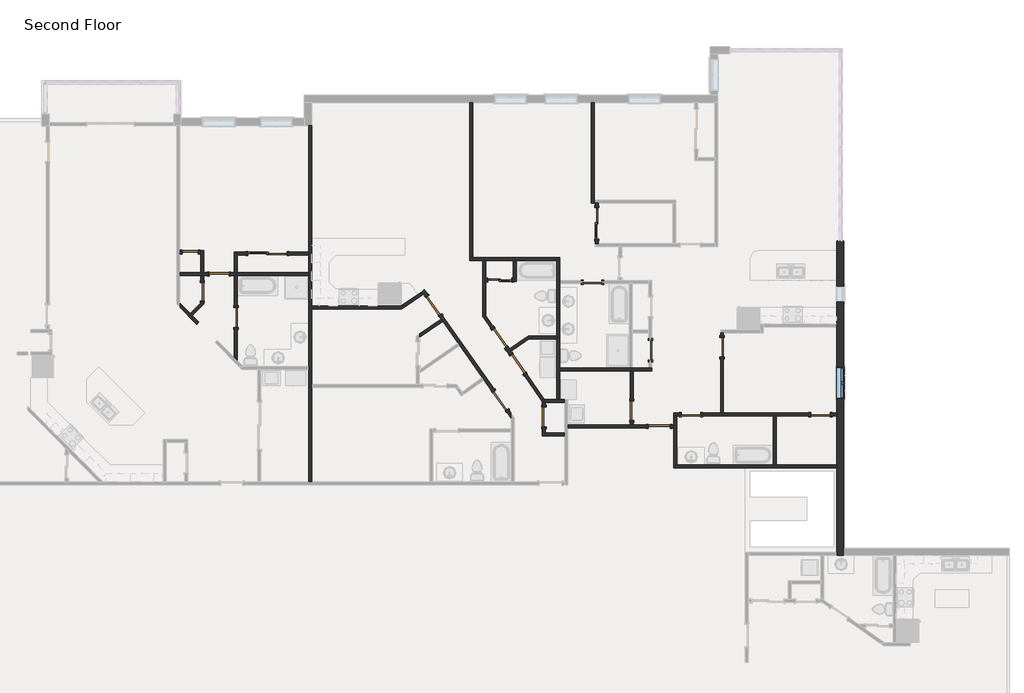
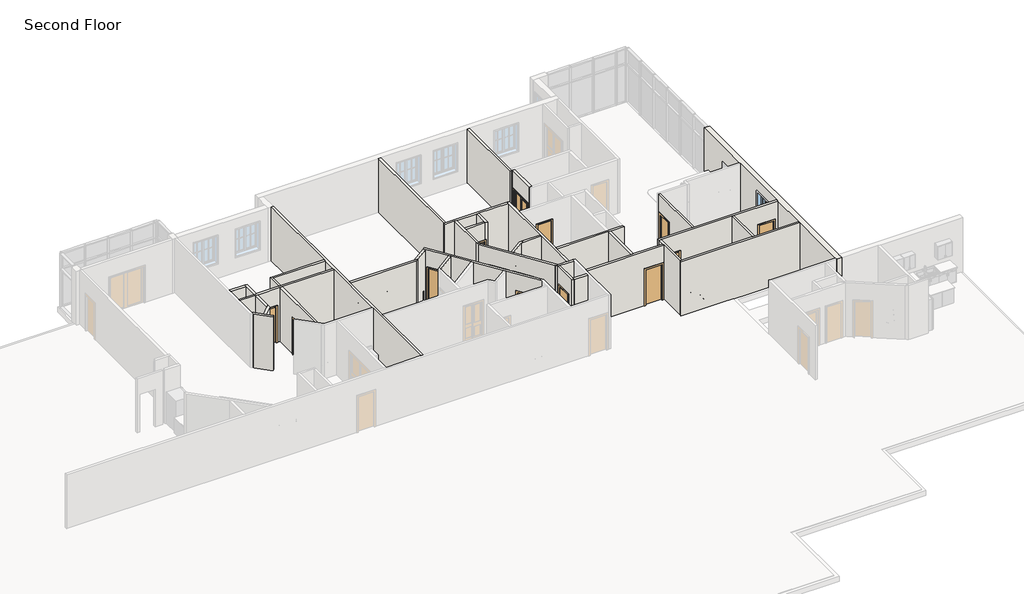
# One storey, part 11 of 17: 37 walls, 19 doors, 1 window.
"""IFC4 building model written with IfcOpenShell, lengths in millimetres."""

from ifc_helpers import new_model, si_unit, frame, origin, place, context, project, spatial, polyline, outline, extrude, faceted_brep, transform, mapped, element, save
from components import door_e2285e44, door_f2586ccf, door_2d0eeab4, door_d8f5dbb5, door_f2b275c1, door_825b8444, door_c29894e6, door_88c23cd7, door_900f836f, door_2e7ec8be, window_33528cc2

model = new_model("IFC4")

# Units and contexts
model_context = context("Model", 3, world=origin())
ifc_project = project(units=[si_unit("LENGTHUNIT", "METRE", prefix="MILLI")], contexts=[model_context])

# Site, building, storey
site = spatial("IfcSite", under=ifc_project)
building = spatial("IfcBuilding", under=site)
storey = spatial("IfcBuildingStorey", under=building, Name="Second Floor", Elevation=3048.0)

# Doors
placement = place(None, origin())
door_shape = door_e2285e44(model_context)
element("IfcDoor", 1, ObjectType="Single-Flush : 24\" x 80\"", at=placement, inside=storey, context=model_context, shape_type="MappedRepresentation", body=[
    mapped(door_shape, transform((32134.1490863, 11206.8738431, 3048.0), x_axis=(-1.0, 0.0, 0.0), y_axis=(0.0, -1.0, 0.0), z_axis=(0.0, 0.0, 1.0))),
])
door_2_shape = door_f2586ccf(model_context)
element("IfcDoor", 2, ObjectType="Single-Flush : 28\" x 80\"", at=placement, inside=storey, context=model_context, shape_type="MappedRepresentation", body=[
    mapped(door_2_shape, transform((32600.8503506, 9684.7566317, 3048.0), x_axis=(0.0, -1.0, 0.0), y_axis=(1.0, 0.0, 0.0), z_axis=(0.0, 0.0, 1.0))),
])
door_3_shape = door_2d0eeab4(model_context)
element("IfcDoor", 3, ObjectType="Single-Flush : 28\" x 80\"", at=placement, inside=storey, context=model_context, shape_type="MappedRepresentation", body=[
    mapped(door_3_shape, transform((47614.8260153, 10045.1667096, 3048.0), x_axis=(1.0, 0.0, 0.0), y_axis=(0.0, 1.0, 0.0), z_axis=(0.0, 0.0, 1.0))),
])
door_4_shape = door_d8f5dbb5(model_context)
element("IfcDoor", 4, ObjectType="Single-Flush : 30\" x 80\"", at=placement, inside=storey, context=model_context, shape_type="MappedRepresentation", body=[
    mapped(door_4_shape, transform((45750.4941402, 4857.5393477, 3048.0), x_axis=(0.0, 1.0, 0.0), y_axis=(-1.0, 0.0, 0.0), z_axis=(0.0, 0.0, 1.0))),
])
element("IfcDoor", 5, ObjectType="Single-Flush : 30\" x 80\"", at=placement, inside=storey, context=model_context, shape_type="MappedRepresentation", body=[
    mapped(door_4_shape, transform((51410.1982354, 4944.5386142, 3048.0), x_axis=(-1.0, 0.0, 0.0), y_axis=(0.0, -1.0, 0.0), z_axis=(0.0, 0.0, 1.0))),
])
element("IfcDoor", 6, ObjectType="Single-Flush : 30\" x 80\"", at=placement, inside=storey, context=model_context, shape_type="MappedRepresentation", body=[
    mapped(door_4_shape, transform((49850.4788879, 7420.455328, 3048.0), x_axis=(0.0, -1.0, 0.0), y_axis=(1.0, 0.0, 0.0), z_axis=(0.0, 0.0, 1.0))),
])
door_5_shape = door_f2b275c1(model_context)
element("IfcDoor", 7, ObjectType="Single-Flush : 30\" x 80\"", at=placement, inside=storey, context=model_context, shape_type="MappedRepresentation", body=[
    mapped(door_5_shape, transform((33248.5503506, 10357.9910099, 3048.0), x_axis=(-1.0, 0.0, 0.0), y_axis=(0.0, -1.0, 0.0), z_axis=(0.0, 0.0, 1.0))),
])
element("IfcDoor", 8, ObjectType="Single-Flush : 30\" x 80\"", at=placement, inside=storey, context=model_context, shape_type="MappedRepresentation", body=[
    mapped(door_5_shape, transform((33896.2503506, 8681.5910099, 3048.0), x_axis=(0.0, 1.0, 0.0), y_axis=(-1.0, 0.0, 0.0), z_axis=(0.0, 0.0, 1.0))),
])
element("IfcDoor", 9, ObjectType="Single-Flush : 30\" x 80\"", at=placement, inside=storey, context=model_context, shape_type="MappedRepresentation", body=[
    mapped(door_5_shape, transform((49133.9272963, 5096.9386142, 3048.0), x_axis=(0.0, -1.0, 0.0), y_axis=(1.0, 0.0, 0.0), z_axis=(0.0, 0.0, 1.0))),
])
element("IfcDoor", 10, ObjectType="Single-Flush : 30\" x 80\"", at=placement, inside=storey, context=model_context, shape_type="MappedRepresentation", body=[
    mapped(door_5_shape, transform((52607.3485135, 7538.9439464, 3048.0), x_axis=(0.0, 1.0, 0.0), y_axis=(-1.0, 0.0, 0.0), z_axis=(0.0, 0.0, 1.0))),
])
element("IfcDoor", 11, ObjectType="Single-Flush : 30\" x 80\"", at=placement, inside=storey, context=model_context, shape_type="MappedRepresentation", body=[
    mapped(door_5_shape, transform((56399.0962704, 4944.5386142, 3048.0), x_axis=(1.0, 0.0, 0.0), y_axis=(0.0, 1.0, 0.0), z_axis=(0.0, 0.0, 1.0))),
])
door_6_shape = door_825b8444(model_context)
element("IfcDoor", 12, ObjectType="Single-Flush : 34\" x 80\"", at=placement, inside=storey, context=model_context, shape_type="MappedRepresentation", body=[
    mapped(door_6_shape, transform((44075.379577, 5485.5706082, 3048.0), x_axis=(0.5735764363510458, -0.8191520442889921, 0.0), y_axis=(0.8191520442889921, 0.5735764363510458, 0.0), z_axis=(0.0, 0.0, 1.0))),
])
element("IfcDoor", 13, ObjectType="Single-Flush : 34\" x 80\"", at=placement, inside=storey, context=model_context, shape_type="MappedRepresentation", body=[
    mapped(door_6_shape, transform((44748.5781815, 6887.1795824, 3048.0), x_axis=(-0.5735764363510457, 0.819152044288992, 0.0), y_axis=(-0.819152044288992, -0.5735764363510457, 0.0), z_axis=(0.0, 0.0, 1.0))),
])
door_7_shape = door_c29894e6(model_context)
element("IfcDoor", 14, ObjectType="Single-Flush : 34\" x 80\"", at=placement, inside=storey, context=model_context, shape_type="MappedRepresentation", body=[
    mapped(door_7_shape, transform((41510.2711658, 9148.9250727, 3048.0), x_axis=(-0.5735764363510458, 0.8191520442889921, 0.0), y_axis=(-0.8191520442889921, -0.5735764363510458, 0.0), z_axis=(0.0, 0.0, 1.0))),
])
element("IfcDoor", 15, ObjectType="Single-Flush : 34\" x 80\"", at=placement, inside=storey, context=model_context, shape_type="MappedRepresentation", body=[
    mapped(door_7_shape, transform((44049.2737903, 7885.8897548, 3048.0), x_axis=(0.5735764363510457, -0.819152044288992, 0.0), y_axis=(0.819152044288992, 0.5735764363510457, 0.0), z_axis=(0.0, 0.0, 1.0))),
])
element("IfcDoor", 16, ObjectType="Single-Flush : 34\" x 80\"", at=placement, inside=storey, context=model_context, shape_type="MappedRepresentation", body=[
    mapped(door_7_shape, transform((50190.9982354, 4487.3386142, 3048.0), x_axis=(1.0, 0.0, 0.0), y_axis=(0.0, 1.0, 0.0), z_axis=(0.0, 0.0, 1.0))),
])
door_8_shape = door_88c23cd7(model_context)
element("IfcDoor", 17, ObjectType="Sliding-Closet : 36\" x 80\"", at=placement, inside=storey, context=model_context, shape_type="MappedRepresentation", body=[
    mapped(door_8_shape, transform((44050.8019535, 10258.3378349, 3048.0), x_axis=(-1.0, 0.0, 0.0), y_axis=(0.0, -1.0, 0.0), z_axis=(0.0, 0.0, 1.0))),
])
door_9_shape = door_900f836f(model_context)
element("IfcDoor", 18, ObjectType="Sliding-Closet : 48\" x 80\"", at=placement, inside=storey, context=model_context, shape_type="MappedRepresentation", body=[
    mapped(door_9_shape, transform((47915.2940143, 12314.1601128, 3048.0), x_axis=(0.0, 1.0, 0.0), y_axis=(-1.0, 0.0, 0.0), z_axis=(0.0, 0.0, 1.0))),
])
door_10_shape = door_2e7ec8be(model_context)
element("IfcDoor", 19, ObjectType="Sliding-Closet : 60\" x 80\"", at=placement, inside=storey, context=model_context, shape_type="MappedRepresentation", body=[
    mapped(door_10_shape, transform((35115.4503506, 11022.7238431, 3048.0), x_axis=(1.0, 0.0, 0.0), y_axis=(0.0, 1.0, 0.0), z_axis=(0.0, 0.0, 1.0))),
])

# Walls
element("IfcWall", 20, ObjectType="Exterior - Brick on Wood Stud", at=placement, inside=storey, context=model_context, shape_type="Brep", body=[
    faceted_brep([(57019.8087704, 11632.2044819, 3048.0), (57019.8087704, 8425.9167096, 3048.0), (57019.8087704, 8311.6167096, 3048.0), (57019.8087704, 5001.6886142, 3048.0), (57019.8087704, 4887.3886142, 3048.0), (57019.8087704, 3002.5544819, 3048.0), (57019.8087704, 2888.2544819, 3048.0), (57019.8087704, -370.8512558, 3048.0), (57019.8087704, -485.1512558, 3048.0), (57019.8087704, -485.1512558, 6096.0), (57019.8087704, -370.8512558, 6096.0), (57019.8087704, 2888.2544819, 6096.0), (57019.8087704, 3002.5544819, 6096.0), (57019.8087704, 4887.3886142, 6096.0), (57019.8087704, 5001.6886142, 6096.0), (57019.8087704, 8311.6167096, 6096.0), (57019.8087704, 8425.9167096, 6096.0), (57019.8087704, 11632.2044819, 6096.0), (57019.8087704, 5554.1386142, 5486.4), (57019.8087704, 5554.1386142, 3962.4), (57019.8087704, 6773.3386142, 3962.4), (57019.8087704, 6773.3386142, 5486.4), (57019.8087704, 9283.1667096, 5181.6), (57019.8087704, 9283.1667096, 3962.4), (57019.8087704, 9892.7667096, 3962.4), (57019.8087704, 9892.7667096, 5181.6), (57302.3837704, 11632.2044819, 3048.0), (57302.3837704, 11632.2044819, 6096.0), (57302.3837704, -202.5762558, 6096.0), (57302.3837704, -485.1512558, 6096.0), (57302.3837704, -485.1512558, 3048.0), (57302.3837704, -202.5762558, 3048.0), (57302.3837704, 5554.1386142, 5486.4), (57302.3837704, 6773.3386142, 5486.4), (57302.3837704, 6773.3386142, 3962.4), (57302.3837704, 5554.1386142, 3962.4), (57302.3837704, 9283.1667096, 5181.6), (57302.3837704, 9892.7667096, 5181.6), (57302.3837704, 9892.7667096, 3962.4), (57302.3837704, 9283.1667096, 3962.4)], [[[0, 1, 2, 3, 4, 5, 6, 7, 8, 9, 10, 11, 12, 13, 14, 15, 16, 17], [18, 19, 20, 21], [22, 23, 24, 25]], [[26, 27, 28, 29, 30, 31], [32, 33, 34, 35], [36, 37, 38, 39]], [[8, 7, 6, 5, 4, 3, 2, 1, 0, 26, 31, 30]], [[17, 16, 15, 14, 13, 12, 11, 10, 9, 29, 28, 27]], [[0, 17, 27, 26]], [[19, 18, 32, 35]], [[20, 19, 35, 34]], [[21, 20, 34, 33]], [[18, 21, 33, 32]], [[23, 22, 36, 39]], [[24, 23, 39, 38]], [[25, 24, 38, 37]], [[22, 25, 37, 36]], [[9, 8, 30, 29]]]),
])
element("IfcWall", 21, ObjectType="Interior - 4 1/2\" Partition", at=placement, inside=storey, context=model_context, shape_type="Brep", body=[
    faceted_brep([(57019.8087704, 3002.5544819, 3048.0), (54695.8146836, 3002.5544819, 3048.0), (54581.5146836, 3002.5544819, 3048.0), (50857.7482354, 3002.5544819, 3048.0), (50743.4482354, 3002.5544819, 3048.0), (50743.4482354, 3002.5544819, 6096.0), (50857.7482354, 3002.5544819, 6096.0), (54581.5146836, 3002.5544819, 6096.0), (54695.8146836, 3002.5544819, 6096.0), (57019.8087704, 3002.5544819, 6096.0), (57019.8087704, 2888.2544819, 3048.0), (57019.8087704, 2888.2544819, 6096.0), (50743.4482354, 2888.2544819, 6096.0), (50743.4482354, 2888.2544819, 3048.0)], [[[0, 1, 2, 3, 4, 5, 6, 7, 8, 9]], [[10, 11, 12, 13]], [[4, 3, 2, 1, 0, 10, 13]], [[9, 8, 7, 6, 5, 12, 11]], [[5, 4, 13, 12]], [[0, 9, 11, 10]]]),
])
element("IfcWall", 22, ObjectType="Interior - 4 1/2\" Partition", at=placement, inside=storey, context=model_context, shape_type="Brep", body=[
    faceted_brep([(50857.7482354, 3002.5544819, 3048.0), (50857.7482354, 4887.3886142, 3048.0), (50857.7482354, 4887.3886142, 6096.0), (50857.7482354, 3002.5544819, 6096.0), (50743.4482354, 3002.5544819, 3048.0), (50743.4482354, 3002.5544819, 6096.0), (50743.4482354, 4430.1886142, 6096.0), (50743.4482354, 4544.4886142, 6096.0), (50743.4482354, 4887.3886142, 6096.0), (50743.4482354, 4887.3886142, 3048.0), (50743.4482354, 4544.4886142, 3048.0), (50743.4482354, 4430.1886142, 3048.0)], [[[0, 1, 2, 3]], [[4, 5, 6, 7, 8, 9, 10, 11]], [[1, 0, 4, 11, 10, 9]], [[3, 2, 8, 7, 6, 5]], [[2, 1, 9, 8]], [[0, 3, 5, 4]]]),
])
element("IfcWall", 23, ObjectType="Interior - 4 1/2\" Partition", at=placement, inside=storey, context=model_context, shape_type="Brep", body=[
    faceted_brep([(50743.4482354, 4544.4886142, 3048.0), (50622.7982354, 4544.4886142, 3048.0), (50622.7982354, 4544.4886142, 5080.0), (49759.1982354, 4544.4886142, 5080.0), (49759.1982354, 4544.4886142, 3048.0), (49191.0772963, 4544.4886142, 3048.0), (49076.7772963, 4544.4886142, 3048.0), (46668.7626872, 4544.4886142, 3048.0), (46668.7626872, 4544.4886142, 6096.0), (49076.7772963, 4544.4886142, 6096.0), (49191.0772963, 4544.4886142, 6096.0), (50743.4482354, 4544.4886142, 6096.0), (50622.7982354, 4430.1886142, 5080.0), (50622.7982354, 4430.1886142, 3048.0), (50743.4482354, 4430.1886142, 3048.0), (50743.4482354, 4430.1886142, 6096.0), (46668.7626872, 4430.1886142, 6096.0), (46668.7626872, 4430.1886142, 3048.0), (49759.1982354, 4430.1886142, 3048.0), (49759.1982354, 4430.1886142, 5080.0)], [[[0, 1, 2, 3, 4, 5, 6, 7, 8, 9, 10, 11]], [[12, 13, 14, 15, 16, 17, 18, 19]], [[18, 17, 7, 6, 5, 4]], [[14, 13, 1, 0]], [[11, 10, 9, 8, 16, 15]], [[2, 1, 13, 12]], [[3, 2, 12, 19]], [[4, 3, 19, 18]], [[8, 7, 17, 16]], [[0, 11, 15, 14]]]),
])
element("IfcWall", 24, ObjectType="Interior - 4 1/2\" Partition", at=placement, inside=storey, context=model_context, shape_type="Brep", body=[
    faceted_brep([(46554.4626872, 5524.2893477, 3048.0), (46352.4352525, 5524.2893477, 3048.0), (46238.1352525, 5524.2893477, 3048.0), (45772.6514653, 5524.2893477, 3048.0), (45633.1169298, 5524.2893477, 3048.0), (45633.1169298, 5524.2893477, 6096.0), (45772.6514653, 5524.2893477, 6096.0), (46238.1352525, 5524.2893477, 6096.0), (46352.4352525, 5524.2893477, 6096.0), (46554.4626872, 5524.2893477, 6096.0), (46554.4626872, 5409.9893477, 3048.0), (46554.4626872, 5409.9893477, 6096.0), (45807.6441402, 5409.9893477, 6096.0), (45713.1506514, 5409.9893477, 6096.0), (45713.1506514, 5409.9893477, 3048.0), (45807.6441402, 5409.9893477, 3048.0), (45693.3441402, 5438.2759773, 3048.0), (45693.3441402, 5438.2759773, 6096.0)], [[[0, 1, 2, 3, 4, 5, 6, 7, 8, 9]], [[10, 11, 12, 13, 14, 15]], [[4, 3, 2, 1, 0, 10, 15, 14, 16]], [[9, 8, 7, 6, 5, 17, 13, 12, 11]], [[5, 4, 16, 14, 13, 17]], [[0, 9, 11, 10]]]),
])
element("IfcWall", 25, ObjectType="Interior - 4 1/2\" Partition", at=placement, inside=storey, context=model_context, shape_type="Brep", body=[
    faceted_brep([(46352.4352525, 5524.2893477, 3048.0), (46352.4352525, 6635.2167096, 3048.0), (46352.4352525, 6749.5167096, 3048.0), (46352.4352525, 9988.0167096, 3048.0), (46352.4352525, 10102.3167096, 3048.0), (46352.4352525, 11001.2878349, 3048.0), (46352.4352525, 11001.2878349, 6096.0), (46352.4352525, 10102.3167096, 6096.0), (46352.4352525, 9988.0167096, 6096.0), (46352.4352525, 6749.5167096, 6096.0), (46352.4352525, 6635.2167096, 6096.0), (46352.4352525, 5524.2893477, 6096.0), (46238.1352525, 5524.2893477, 3048.0), (46238.1352525, 5524.2893477, 6096.0), (46238.1352525, 7864.8634145, 6096.0), (46238.1352525, 7979.1634145, 6096.0), (46238.1352525, 10886.9878349, 6096.0), (46238.1352525, 11001.2878349, 6096.0), (46238.1352525, 11001.2878349, 3048.0), (46238.1352525, 10886.9878349, 3048.0), (46238.1352525, 7979.1634145, 3048.0), (46238.1352525, 7864.8634145, 3048.0)], [[[0, 1, 2, 3, 4, 5, 6, 7, 8, 9, 10, 11]], [[12, 13, 14, 15, 16, 17, 18, 19, 20, 21]], [[5, 4, 3, 2, 1, 0, 12, 21, 20, 19, 18]], [[11, 10, 9, 8, 7, 6, 17, 16, 15, 14, 13]], [[6, 5, 18, 17]], [[0, 11, 13, 12]]]),
])
element("IfcWall", 26, ObjectType="Interior - 4 1/2\" Partition", at=placement, inside=storey, context=model_context, shape_type="Brep", body=[
    faceted_brep([(46238.1352525, 11001.2878349, 3048.0), (43004.4928001, 11001.2878349, 3048.0), (42890.1928001, 11001.2878349, 3048.0), (42890.1928001, 11001.2878349, 6096.0), (43004.4928001, 11001.2878349, 6096.0), (46238.1352525, 11001.2878349, 6096.0), (46238.1352525, 10886.9878349, 3048.0), (46238.1352525, 10886.9878349, 6096.0), (44678.4640263, 10886.9878349, 6096.0), (44564.1640263, 10886.9878349, 6096.0), (43512.0398807, 10886.9878349, 6096.0), (43397.7398807, 10886.9878349, 6096.0), (42890.1928001, 10886.9878349, 6096.0), (42890.1928001, 10886.9878349, 3048.0), (43397.7398807, 10886.9878349, 3048.0), (43512.0398807, 10886.9878349, 3048.0), (44564.1640263, 10886.9878349, 3048.0), (44678.4640263, 10886.9878349, 3048.0)], [[[0, 1, 2, 3, 4, 5]], [[6, 7, 8, 9, 10, 11, 12, 13, 14, 15, 16, 17]], [[2, 1, 0, 6, 17, 16, 15, 14, 13]], [[5, 4, 3, 12, 11, 10, 9, 8, 7]], [[3, 2, 13, 12]], [[0, 5, 7, 6]]]),
])
element("IfcWall", 27, ObjectType="Interior - 4 1/2\" Partition", at=placement, inside=storey, context=model_context, shape_type="SweptSolid", body=[
    extrude(outline(polyline([(43004.4928001, 16964.1039258), (43004.4928001, 11001.2878349), (42890.1928001, 11001.2878349), (42890.1928001, 16964.1039258), (43004.4928001, 16964.1039258)])), frame((0.0, 0.0, 3048.0), z_axis=(0.0, 0.0, 1.0), x_axis=(1.0, 0.0, 0.0)), (0.0, 0.0, 1.0), 3048.0),
])
element("IfcWall", 28, ObjectType="Interior - 4 1/2\" Partition", at=placement, inside=storey, context=model_context, shape_type="Brep", body=[
    faceted_brep([(47578.7440143, 16964.1039258, 3048.0), (47578.7440143, 13091.2456698, 3048.0), (47578.7440143, 13091.2456698, 6096.0), (47578.7440143, 16964.1039258, 6096.0), (47693.0440143, 16964.1039258, 3048.0), (47693.0440143, 16964.1039258, 6096.0), (47693.0440143, 13205.5456698, 6096.0), (47693.0440143, 13091.2456698, 6096.0), (47693.0440143, 13091.2456698, 3048.0), (47693.0440143, 13205.5456698, 3048.0)], [[[0, 1, 2, 3]], [[4, 5, 6, 7, 8, 9]], [[1, 0, 4, 9, 8]], [[3, 2, 7, 6, 5]], [[2, 1, 8, 7]], [[0, 3, 5, 4]]]),
])
element("IfcWall", 29, ObjectType="Interior - 4 1/2\" Partition", at=placement, inside=storey, context=model_context, shape_type="SweptSolid", body=[
    extrude(outline(polyline([(13091.2456698, 3048.0), (12923.7601128, 3048.0), (12923.7601128, 5080.0), (11704.5601128, 5080.0), (11704.5601128, 3048.0), (11537.0745559, 3048.0), (11537.0745559, 6096.0), (13091.2456698, 6096.0), (13091.2456698, 3048.0)])), frame((47731.1440143, 0.0, 0.0), z_axis=(1.0, 0.0, 0.0), x_axis=(0.0, 1.0, 0.0)), (0.0, 0.0, 1.0), 114.3),
])
element("IfcWall", 30, ObjectType="Interior - 4 1/2\" Partition", at=placement, inside=storey, context=model_context, shape_type="Brep", body=[
    faceted_brep([(46352.4352525, 6635.2167096, 3048.0), (49076.7772963, 6635.2167096, 3048.0), (49191.0772963, 6635.2167096, 3048.0), (49907.6288879, 6635.2167096, 3048.0), (49907.6288879, 6635.2167096, 6096.0), (49191.0772963, 6635.2167096, 6096.0), (49076.7772963, 6635.2167096, 6096.0), (46352.4352525, 6635.2167096, 6096.0), (46352.4352525, 6749.5167096, 3048.0), (46352.4352525, 6749.5167096, 6096.0), (49032.3272963, 6749.5167096, 6096.0), (49146.6272963, 6749.5167096, 6096.0), (49793.3288879, 6749.5167096, 6096.0), (49907.6288879, 6749.5167096, 6096.0), (49907.6288879, 6749.5167096, 3048.0), (49793.3288879, 6749.5167096, 3048.0), (49146.6272963, 6749.5167096, 3048.0), (49032.3272963, 6749.5167096, 3048.0)], [[[0, 1, 2, 3, 4, 5, 6, 7]], [[8, 9, 10, 11, 12, 13, 14, 15, 16, 17]], [[3, 2, 1, 0, 8, 17, 16, 15, 14]], [[7, 6, 5, 4, 13, 12, 11, 10, 9]], [[4, 3, 14, 13]], [[0, 7, 9, 8]]]),
])
element("IfcWall", 31, ObjectType="Interior - 4 1/2\" Partition", at=placement, inside=storey, context=model_context, shape_type="SweptSolid", body=[
    extrude(outline(polyline([(4715.9386142, 5080.0), (4715.9386142, 3048.0), (4544.4886142, 3048.0), (4544.4886142, 6096.0), (6635.2167096, 6096.0), (6635.2167096, 3048.0), (5477.9386142, 3048.0), (5477.9386142, 5080.0), (4715.9386142, 5080.0)])), frame((49076.7772963, 0.0, 0.0), z_axis=(1.0, 0.0, 0.0), x_axis=(0.0, 1.0, 0.0)), (0.0, 0.0, 1.0), 114.3),
])
element("IfcWall", 32, ObjectType="Interior - 4 1/2\" Partition", at=placement, inside=storey, context=model_context, shape_type="Brep", body=[
    faceted_brep([(57019.8087704, 5001.6886142, 3048.0), (56780.0962704, 5001.6886142, 3048.0), (56780.0962704, 5001.6886142, 5080.0), (56018.0962704, 5001.6886142, 5080.0), (56018.0962704, 5001.6886142, 3048.0), (52664.4985135, 5001.6886142, 3048.0), (52550.1985135, 5001.6886142, 3048.0), (51791.1982354, 5001.6886142, 3048.0), (51791.1982354, 5001.6886142, 5080.0), (51029.1982354, 5001.6886142, 5080.0), (51029.1982354, 5001.6886142, 3048.0), (50743.4482354, 5001.6886142, 3048.0), (50743.4482354, 5001.6886142, 6096.0), (52550.1985135, 5001.6886142, 6096.0), (52664.4985135, 5001.6886142, 6096.0), (57019.8087704, 5001.6886142, 6096.0), (56780.0962704, 4887.3886142, 5080.0), (56780.0962704, 4887.3886142, 3048.0), (57019.8087704, 4887.3886142, 3048.0), (57019.8087704, 4887.3886142, 6096.0), (54695.8146836, 4887.3886142, 6096.0), (54581.5146836, 4887.3886142, 6096.0), (50857.7482354, 4887.3886142, 6096.0), (50743.4482354, 4887.3886142, 6096.0), (50743.4482354, 4887.3886142, 3048.0), (50857.7482354, 4887.3886142, 3048.0), (51029.1982354, 4887.3886142, 3048.0), (51029.1982354, 4887.3886142, 5080.0), (51791.1982354, 4887.3886142, 5080.0), (51791.1982354, 4887.3886142, 3048.0), (54581.5146836, 4887.3886142, 3048.0), (54695.8146836, 4887.3886142, 3048.0), (56018.0962704, 4887.3886142, 3048.0), (56018.0962704, 4887.3886142, 5080.0)], [[[0, 1, 2, 3, 4, 5, 6, 7, 8, 9, 10, 11, 12, 13, 14, 15]], [[16, 17, 18, 19, 20, 21, 22, 23, 24, 25, 26, 27, 28, 29, 30, 31, 32, 33]], [[11, 10, 26, 25, 24]], [[18, 17, 1, 0]], [[32, 31, 30, 29, 7, 6, 5, 4]], [[15, 14, 13, 12, 23, 22, 21, 20, 19]], [[27, 26, 10, 9]], [[28, 27, 9, 8]], [[29, 28, 8, 7]], [[2, 1, 17, 16]], [[3, 2, 16, 33]], [[4, 3, 33, 32]], [[12, 11, 24, 23]], [[0, 15, 19, 18]]]),
])
element("IfcWall", 33, ObjectType="Interior - 4 1/2\" Partition", at=placement, inside=storey, context=model_context, shape_type="SweptSolid", body=[
    extrude(outline(polyline([(54581.5146836, 3002.5544819), (54581.5146836, 4887.3886142), (54695.8146836, 4887.3886142), (54695.8146836, 3002.5544819), (54581.5146836, 3002.5544819)])), frame((0.0, 0.0, 3048.0), z_axis=(0.0, 0.0, 1.0), x_axis=(1.0, 0.0, 0.0)), (0.0, 0.0, 1.0), 3048.0),
])
element("IfcWall", 34, ObjectType="Interior - 4 1/2\" Partition", at=placement, inside=storey, context=model_context, shape_type="SweptSolid", body=[
    extrude(outline(polyline([(8091.3939464, 3048.0), (7919.9439464, 3048.0), (7919.9439464, 5080.0), (7157.9439464, 5080.0), (7157.9439464, 3048.0), (5001.6886142, 3048.0), (5001.6886142, 6096.0), (8091.3939464, 6096.0), (8091.3939464, 3048.0)])), frame((52550.1985135, 0.0, 0.0), z_axis=(1.0, 0.0, 0.0), x_axis=(0.0, 1.0, 0.0)), (0.0, 0.0, 1.0), 114.3),
])
element("IfcWall", 35, ObjectType="Interior - 4 1/2\" Partition", at=placement, inside=storey, context=model_context, shape_type="Brep", body=[
    faceted_brep([(36816.4178001, 2359.3591714, 3048.0), (36816.4178001, 5991.110079, 3048.0), (36816.4178001, 6105.410079, 3048.0), (36816.4178001, 9005.4410099, 3048.0), (36816.4178001, 9119.7410099, 3048.0), (36816.4178001, 16077.0865339, 3048.0), (36816.4178001, 16077.0865339, 6096.0), (36816.4178001, 9119.7410099, 6096.0), (36816.4178001, 9005.4410099, 6096.0), (36816.4178001, 6105.410079, 6096.0), (36816.4178001, 5991.110079, 6096.0), (36816.4178001, 2359.3591714, 6096.0), (36702.1178001, 2359.3591714, 3048.0), (36702.1178001, 2359.3591714, 6096.0), (36702.1178001, 6691.8559423, 6096.0), (36702.1178001, 6806.1559423, 6096.0), (36702.1178001, 10300.8410099, 6096.0), (36702.1178001, 10415.1410099, 6096.0), (36702.1178001, 11092.5738431, 6096.0), (36702.1178001, 11206.8738431, 6096.0), (36702.1178001, 16077.0865339, 6096.0), (36702.1178001, 16077.0865339, 3048.0), (36702.1178001, 11206.8738431, 3048.0), (36702.1178001, 11092.5738431, 3048.0), (36702.1178001, 10415.1410099, 3048.0), (36702.1178001, 10300.8410099, 3048.0), (36702.1178001, 6806.1559423, 3048.0), (36702.1178001, 6691.8559423, 3048.0)], [[[0, 1, 2, 3, 4, 5, 6, 7, 8, 9, 10, 11]], [[12, 13, 14, 15, 16, 17, 18, 19, 20, 21, 22, 23, 24, 25, 26, 27]], [[5, 4, 3, 2, 1, 0, 12, 27, 26, 25, 24, 23, 22, 21]], [[11, 10, 9, 8, 7, 6, 20, 19, 18, 17, 16, 15, 14, 13]], [[0, 11, 13, 12]], [[6, 5, 21, 20]]]),
])
element("IfcWall", 36, ObjectType="Interior - 4 1/2\" Partition", at=placement, inside=storey, context=model_context, shape_type="Brep", body=[
    faceted_brep([(41309.4153999, 9535.4148188, 5080.0), (41309.4153999, 9535.4148188, 3048.0), (41154.070698, 9757.2700452, 3048.0), (41154.070698, 9757.2700452, 6096.0), (44491.9949591, 4990.220165, 6096.0), (44491.9949591, 4990.220165, 3048.0), (44369.8644215, 5164.6406488, 3048.0), (44369.8644215, 5164.6406488, 5080.0), (43874.5238111, 5872.0603542, 5080.0), (43874.5238111, 5872.0603542, 3048.0), (41804.7560103, 8827.9951134, 3048.0), (41804.7560103, 8827.9951134, 5080.0), (41060.4416193, 9691.7102585, 3048.0), (41126.001406, 9598.0811798, 3048.0), (41215.7863212, 9469.8550321, 3048.0), (41215.7863212, 9469.8550321, 5080.0), (41711.1269316, 8762.4353267, 5080.0), (41711.1269316, 8762.4353267, 3048.0), (41800.9118469, 8634.209179, 3048.0), (41866.4716335, 8540.5801003, 3048.0), (42452.1089123, 7704.203388, 3048.0), (42517.668699, 7610.5743093, 3048.0), (43383.893802, 6373.476655, 3048.0), (43449.4535887, 6279.8475763, 3048.0), (43780.8947324, 5806.5005676, 3048.0), (43780.8947324, 5806.5005676, 5080.0), (44276.2353429, 5099.0808621, 5080.0), (44276.2353429, 5099.0808621, 3048.0), (44491.9949591, 4790.9441963, 3048.0), (44491.9949591, 4790.9441963, 6096.0), (43449.4535887, 6279.8475763, 6096.0), (43383.893802, 6373.476655, 6096.0), (42517.668699, 7610.5743093, 6096.0), (42452.1089123, 7704.203388, 6096.0), (41866.4716335, 8540.5801003, 6096.0), (41800.9118469, 8634.209179, 6096.0), (41126.001406, 9598.0811798, 6096.0), (41060.4416193, 9691.7102585, 6096.0)], [[[0, 1, 2, 3, 4, 5, 6, 7, 8, 9, 10, 11]], [[12, 13, 14, 15, 16, 17, 18, 19, 20, 21, 22, 23, 24, 25, 26, 27, 28, 29, 30, 31, 32, 33, 34, 35, 36, 37]], [[28, 27, 6, 5]], [[10, 9, 24, 23, 22, 21, 20, 19, 18, 17]], [[2, 1, 14, 13, 12]], [[4, 3, 37, 36, 35, 34, 33, 32, 31, 30, 29]], [[7, 6, 27, 26]], [[8, 7, 26, 25]], [[9, 8, 25, 24]], [[15, 14, 1, 0]], [[16, 15, 0, 11]], [[17, 16, 11, 10]], [[3, 2, 12, 37]], [[5, 4, 29, 28]]]),
])
element("IfcWall", 37, ObjectType="Interior - 4 1/2\" Partition", at=placement, inside=storey, context=model_context, shape_type="SweptSolid", body=[
    extrude(outline(polyline([(41866.4716335, 8540.5801003), (40960.0847694, 7905.9211855), (40960.0847694, 8045.455721), (41800.9118469, 8634.209179), (41866.4716335, 8540.5801003)])), frame((0.0, 0.0, 3048.0), z_axis=(0.0, 0.0, 1.0), x_axis=(1.0, 0.0, 0.0)), (0.0, 0.0, 1.0), 3048.0),
])
element("IfcWall", 38, ObjectType="Interior - 4 1/2\" Partition", at=placement, inside=storey, context=model_context, shape_type="SweptSolid", body=[
    extrude(outline(polyline([(45807.6441402, 4238.9591714), (46554.4626872, 4238.9591714), (46554.4626872, 4124.6591714), (45807.6441402, 4124.6591714), (45807.6441402, 4238.9591714)])), frame((0.0, 0.0, 3048.0), z_axis=(0.0, 0.0, 1.0), x_axis=(1.0, 0.0, 0.0)), (0.0, 0.0, 1.0), 3048.0),
])
element("IfcWall", 39, ObjectType="Interior - 4 1/2\" Partition", at=placement, inside=storey, context=model_context, shape_type="Brep", body=[
    faceted_brep([(45807.6441402, 5238.5393477, 5080.0), (45807.6441402, 5238.5393477, 3048.0), (45807.6441402, 5409.9893477, 3048.0), (45807.6441402, 5409.9893477, 6096.0), (45807.6441402, 4238.9591714, 6096.0), (45807.6441402, 4124.6591714, 6096.0), (45807.6441402, 4124.6591714, 3048.0), (45807.6441402, 4238.9591714, 3048.0), (45807.6441402, 4476.5393477, 3048.0), (45807.6441402, 4476.5393477, 5080.0), (45693.3441402, 5438.2759773, 3048.0), (45693.3441402, 5238.5393477, 3048.0), (45693.3441402, 5238.5393477, 5080.0), (45693.3441402, 4476.5393477, 5080.0), (45693.3441402, 4476.5393477, 3048.0), (45693.3441402, 4124.6591714, 3048.0), (45693.3441402, 4124.6591714, 6096.0), (45693.3441402, 5438.2759773, 6096.0), (45713.1506514, 5409.9893477, 3048.0), (45713.1506514, 5409.9893477, 6096.0)], [[[0, 1, 2, 3, 4, 5, 6, 7, 8, 9]], [[10, 11, 12, 13, 14, 15, 16, 17]], [[2, 1, 11, 10, 18]], [[8, 7, 6, 15, 14]], [[5, 4, 3, 19, 17, 16]], [[12, 11, 1, 0]], [[13, 12, 0, 9]], [[14, 13, 9, 8]], [[6, 5, 16, 15]], [[3, 2, 18, 19]], [[18, 10, 17, 19]]]),
])
element("IfcWall", 40, ObjectType="Interior - 4 1/2\" Partition", at=placement, inside=storey, context=model_context, shape_type="Brep", body=[
    faceted_brep([(44547.7224156, 7273.6693285, 5080.0), (44547.7224156, 7273.6693285, 3048.0), (44478.5204186, 7372.5000226, 3048.0), (44412.9606319, 7466.1291013, 3048.0), (44343.7586349, 7564.9597954, 3048.0), (44343.7586349, 7564.9597954, 5080.0), (43848.4180244, 8272.3795009, 5080.0), (43848.4180244, 8272.3795009, 3048.0), (43512.0398807, 8752.7772764, 3048.0), (43397.7398807, 8916.0145936, 3048.0), (43397.7398807, 8916.0145936, 6096.0), (43512.0398807, 8752.7772764, 6096.0), (44412.9606319, 7466.1291013, 6096.0), (44478.5204186, 7372.5000226, 6096.0), (45772.6514653, 5524.2893477, 6096.0), (45772.6514653, 5524.2893477, 3048.0), (45043.0630261, 6566.249623, 3048.0), (45043.0630261, 6566.249623, 5080.0), (44250.1295562, 7499.4000087, 3048.0), (44454.093337, 7208.1095418, 3048.0), (44454.093337, 7208.1095418, 5080.0), (44949.4339474, 6500.6898363, 5080.0), (44949.4339474, 6500.6898363, 3048.0), (45633.1169298, 5524.2893477, 3048.0), (45633.1169298, 5524.2893477, 6096.0), (43397.7398807, 8716.7386248, 6096.0), (43397.7398807, 8716.7386248, 3048.0), (43754.7889458, 8206.8197142, 3048.0), (43754.7889458, 8206.8197142, 5080.0), (44250.1295562, 7499.4000087, 5080.0)], [[[0, 1, 2, 3, 4, 5, 6, 7, 8, 9, 10, 11, 12, 13, 14, 15, 16, 17]], [[18, 19, 20, 21, 22, 23, 24, 25, 26, 27, 28, 29]], [[27, 26, 9, 8, 7]], [[16, 15, 23, 22]], [[4, 3, 2, 1, 19, 18]], [[14, 13, 12, 11, 10, 25, 24]], [[5, 4, 18, 29]], [[6, 5, 29, 28]], [[7, 6, 28, 27]], [[20, 19, 1, 0]], [[21, 20, 0, 17]], [[22, 21, 17, 16]], [[10, 9, 26, 25]], [[15, 14, 24, 23]]]),
])
element("IfcWall", 41, ObjectType="Interior - 4 1/2\" Partition", at=placement, inside=storey, context=model_context, shape_type="Brep", body=[
    faceted_brep([(43512.0398807, 8752.7772764, 3048.0), (43512.0398807, 10074.1878349, 3048.0), (43512.0398807, 10188.4878349, 3048.0), (43512.0398807, 10886.9878349, 3048.0), (43512.0398807, 10886.9878349, 6096.0), (43512.0398807, 10188.4878349, 6096.0), (43512.0398807, 10074.1878349, 6096.0), (43512.0398807, 8752.7772764, 6096.0), (43397.7398807, 8916.0145936, 3048.0), (43397.7398807, 8916.0145936, 6096.0), (43397.7398807, 10886.9878349, 6096.0), (43397.7398807, 10886.9878349, 3048.0)], [[[0, 1, 2, 3, 4, 5, 6, 7]], [[8, 9, 10, 11]], [[3, 2, 1, 0, 8, 11]], [[7, 6, 5, 4, 10, 9]], [[0, 7, 9, 8]], [[4, 3, 11, 10]]]),
])
element("IfcWall", 42, ObjectType="Interior - 4 1/2\" Partition", at=placement, inside=storey, context=model_context, shape_type="Brep", body=[
    faceted_brep([(44478.5204186, 7372.5000226, 3048.0), (45181.6882153, 7864.8634145, 3048.0), (45344.9255324, 7979.1634145, 3048.0), (45344.9255324, 7979.1634145, 6096.0), (45181.6882153, 7864.8634145, 6096.0), (44478.5204186, 7372.5000226, 6096.0), (44412.9606319, 7466.1291013, 3048.0), (44412.9606319, 7466.1291013, 6096.0), (45145.6495637, 7979.1634145, 6096.0), (45145.6495637, 7979.1634145, 3048.0)], [[[0, 1, 2, 3, 4, 5]], [[6, 7, 8, 9]], [[2, 1, 0, 6, 9]], [[5, 4, 3, 8, 7]], [[3, 2, 9, 8]], [[0, 5, 7, 6]]]),
])
element("IfcWall", 43, ObjectType="Interior - 4 1/2\" Partition", at=placement, inside=storey, context=model_context, shape_type="SweptSolid", body=[
    extrude(outline(polyline([(46238.1352525, 7864.8634145), (45181.6882153, 7864.8634145), (45344.9255324, 7979.1634145), (46238.1352525, 7979.1634145), (46238.1352525, 7864.8634145)])), frame((0.0, 0.0, 3048.0), z_axis=(0.0, 0.0, 1.0), x_axis=(1.0, 0.0, 0.0)), (0.0, 0.0, 1.0), 3048.0),
])
element("IfcWall", 44, ObjectType="Interior - 4 1/2\" Partition", at=placement, inside=storey, context=model_context, shape_type="Brep", body=[
    faceted_brep([(36816.4178001, 9005.4410099, 3048.0), (40279.6235286, 9005.4410099, 3048.0), (40279.6235286, 9005.4410099, 6096.0), (36816.4178001, 9005.4410099, 6096.0), (36816.4178001, 9119.7410099, 3048.0), (36816.4178001, 9119.7410099, 6096.0), (40243.584877, 9119.7410099, 6096.0), (40442.8608458, 9119.7410099, 6096.0), (40442.8608458, 9119.7410099, 3048.0), (40243.584877, 9119.7410099, 3048.0)], [[[0, 1, 2, 3]], [[4, 5, 6, 7, 8, 9]], [[1, 0, 4, 9, 8]], [[3, 2, 7, 6, 5]], [[2, 1, 8, 7]], [[0, 3, 5, 4]]]),
])
element("IfcWall", 45, ObjectType="Interior - 4 1/2\" Partition", at=placement, inside=storey, context=model_context, shape_type="SweptSolid", body=[
    extrude(outline(polyline([(41126.001406, 9598.0811798), (40442.8608458, 9119.7410099), (40243.584877, 9119.7410099), (41060.4416193, 9691.7102585), (41126.001406, 9598.0811798)])), frame((0.0, 0.0, 3048.0), z_axis=(0.0, 0.0, 1.0), x_axis=(1.0, 0.0, 0.0)), (0.0, 0.0, 1.0), 3048.0),
])
element("IfcWall", 46, ObjectType="Interior - 4 1/2\" Partition", at=placement, inside=storey, context=model_context, shape_type="Brep", body=[
    faceted_brep([(32214.8764443, 8760.7604203, 3048.0), (32658.0003506, 9203.8843266, 3048.0), (32658.0003506, 9203.8843266, 6096.0), (32214.8764443, 8760.7604203, 6096.0), (32134.0541392, 8841.5827254, 6096.0), (32543.7003506, 9251.2289368, 6096.0), (32658.0003506, 9365.5289368, 6096.0), (32658.0003506, 9365.5289368, 5080.0), (32621.6280455, 9329.1566317, 5080.0), (32621.6280455, 9329.1566317, 3048.0), (32543.7003506, 9251.2289368, 3048.0), (32134.0541392, 8841.5827254, 3048.0), (32658.0003506, 9329.1566317, 3048.0), (32658.0003506, 9329.1566317, 5080.0)], [[[0, 1, 2, 3]], [[4, 5, 6, 7, 8, 9, 10, 11]], [[1, 0, 11, 10, 9, 12]], [[3, 2, 6, 5, 4]], [[8, 13, 12, 9]], [[13, 8, 7]], [[2, 1, 12, 13, 7, 6]], [[0, 3, 4, 11]]]),
])
element("IfcWall", 47, ObjectType="Interior - 4 1/2\" Partition", at=placement, inside=storey, context=model_context, shape_type="Brep", body=[
    faceted_brep([(32658.0003506, 10300.8410099, 6096.0), (32658.0003506, 9365.5289368, 6096.0), (32658.0003506, 9365.5289368, 5080.0), (32658.0003506, 10040.3566317, 5080.0), (32658.0003506, 10040.3566317, 3048.0), (32658.0003506, 10300.8410099, 3048.0), (32543.7003506, 9251.2289368, 6096.0), (32543.7003506, 10300.8410099, 6096.0), (32543.7003506, 10300.8410099, 3048.0), (32543.7003506, 10040.3566317, 3048.0), (32543.7003506, 10040.3566317, 5080.0), (32543.7003506, 9329.1566317, 5080.0), (32543.7003506, 9329.1566317, 3048.0), (32543.7003506, 9251.2289368, 3048.0), (32621.6280455, 9329.1566317, 3048.0), (32621.6280455, 9329.1566317, 5080.0)], [[[0, 1, 2, 3, 4, 5]], [[6, 7, 8, 9, 10, 11, 12, 13]], [[13, 12, 14]], [[8, 5, 4, 9]], [[1, 0, 7, 6]], [[11, 15, 14, 12]], [[15, 11, 10, 3, 2]], [[3, 10, 9, 4]], [[0, 5, 8, 7]], [[1, 6, 13, 14, 15, 2]]]),
])
element("IfcWall", 48, ObjectType="Interior - 4 1/2\" Partition", at=placement, inside=storey, context=model_context, shape_type="Brep", body=[
    faceted_brep([(31724.597822, 10300.8410099, 3048.0), (32543.7003506, 10300.8410099, 3048.0), (32658.0003506, 10300.8410099, 3048.0), (32867.5503506, 10300.8410099, 3048.0), (32867.5503506, 10300.8410099, 5080.0), (33629.5503506, 10300.8410099, 5080.0), (33629.5503506, 10300.8410099, 3048.0), (33839.1003506, 10300.8410099, 3048.0), (33953.4003506, 10300.8410099, 3048.0), (36702.1178001, 10300.8410099, 3048.0), (36702.1178001, 10300.8410099, 6096.0), (33953.4003506, 10300.8410099, 6096.0), (33839.1003506, 10300.8410099, 6096.0), (32658.0003506, 10300.8410099, 6096.0), (32543.7003506, 10300.8410099, 6096.0), (31724.597822, 10300.8410099, 6096.0), (32867.5503506, 10415.1410099, 5080.0), (32867.5503506, 10415.1410099, 3048.0), (32658.0003506, 10415.1410099, 3048.0), (32543.7003506, 10415.1410099, 3048.0), (31724.597822, 10415.1410099, 3048.0), (31724.597822, 10415.1410099, 6096.0), (32543.7003506, 10415.1410099, 6096.0), (32658.0003506, 10415.1410099, 6096.0), (33839.1003506, 10415.1410099, 6096.0), (33953.4003506, 10415.1410099, 6096.0), (36702.1178001, 10415.1410099, 6096.0), (36702.1178001, 10415.1410099, 3048.0), (33953.4003506, 10415.1410099, 3048.0), (33839.1003506, 10415.1410099, 3048.0), (33629.5503506, 10415.1410099, 3048.0), (33629.5503506, 10415.1410099, 5080.0)], [[[0, 1, 2, 3, 4, 5, 6, 7, 8, 9, 10, 11, 12, 13, 14, 15]], [[16, 17, 18, 19, 20, 21, 22, 23, 24, 25, 26, 27, 28, 29, 30, 31]], [[20, 19, 18, 17, 3, 2, 1, 0]], [[30, 29, 28, 27, 9, 8, 7, 6]], [[15, 14, 13, 12, 11, 10, 26, 25, 24, 23, 22, 21]], [[4, 3, 17, 16]], [[5, 4, 16, 31]], [[6, 5, 31, 30]], [[0, 15, 21, 20]], [[10, 9, 27, 26]]]),
])
element("IfcWall", 49, ObjectType="Interior - 4 1/2\" Partition", at=placement, inside=storey, context=model_context, shape_type="Brep", body=[
    faceted_brep([(32658.0003506, 10415.1410099, 3048.0), (32658.0003506, 11264.0238431, 3048.0), (32658.0003506, 11264.0238431, 6096.0), (32658.0003506, 10415.1410099, 6096.0), (32543.7003506, 10415.1410099, 3048.0), (32543.7003506, 10415.1410099, 6096.0), (32543.7003506, 11149.7238431, 6096.0), (32543.7003506, 11264.0238431, 6096.0), (32543.7003506, 11264.0238431, 3048.0), (32543.7003506, 11149.7238431, 3048.0)], [[[0, 1, 2, 3]], [[4, 5, 6, 7, 8, 9]], [[1, 0, 4, 9, 8]], [[3, 2, 7, 6, 5]], [[2, 1, 8, 7]], [[0, 3, 5, 4]]]),
])
element("IfcWall", 50, ObjectType="Interior - 4 1/2\" Partition", at=placement, inside=storey, context=model_context, shape_type="SweptSolid", body=[
    extrude(outline(polyline([(3048.0, 31724.597822), (3048.0, 31829.3490863), (5080.0, 31829.3490863), (5080.0, 32438.9490863), (3048.0, 32438.9490863), (3048.0, 32543.7003506), (6096.0, 32543.7003506), (6096.0, 31724.597822), (3048.0, 31724.597822)])), frame((0.0, 11149.7238431, 0.0), z_axis=(0.0, 1.0, 0.0), x_axis=(0.0, 0.0, 1.0)), (0.0, 0.0, 1.0), 114.3),
])
element("IfcWall", 51, ObjectType="Interior - 4 1/2\" Partition", at=placement, inside=storey, context=model_context, shape_type="Brep", body=[
    faceted_brep([(33953.4003506, 10415.1410099, 3048.0), (33953.4003506, 11092.5738431, 3048.0), (33953.4003506, 11206.8738431, 3048.0), (33953.4003506, 11206.8738431, 6096.0), (33953.4003506, 11092.5738431, 6096.0), (33953.4003506, 10415.1410099, 6096.0), (33839.1003506, 10415.1410099, 3048.0), (33839.1003506, 10415.1410099, 6096.0), (33839.1003506, 11206.8738431, 6096.0), (33839.1003506, 11206.8738431, 3048.0)], [[[0, 1, 2, 3, 4, 5]], [[6, 7, 8, 9]], [[2, 1, 0, 6, 9]], [[5, 4, 3, 8, 7]], [[3, 2, 9, 8]], [[0, 5, 7, 6]]]),
])
element("IfcWall", 52, ObjectType="Interior - 4 1/2\" Partition", at=placement, inside=storey, context=model_context, shape_type="SweptSolid", body=[
    extrude(outline(polyline([(5080.0, 35877.4503506), (3048.0, 35877.4503506), (3048.0, 36702.1178001), (6096.0, 36702.1178001), (6096.0, 33953.4003506), (3048.0, 33953.4003506), (3048.0, 34353.4503506), (5080.0, 34353.4503506), (5080.0, 35877.4503506)])), frame((0.0, 11092.5738431, 0.0), z_axis=(0.0, 1.0, 0.0), x_axis=(0.0, 0.0, 1.0)), (0.0, 0.0, 1.0), 114.3),
])
element("IfcWall", 53, ObjectType="Interior - 4 1/2\" Partition", at=placement, inside=storey, context=model_context, shape_type="Brep", body=[
    faceted_brep([(33839.1003506, 10300.8410099, 3048.0), (33839.1003506, 9062.5910099, 3048.0), (33839.1003506, 9062.5910099, 5080.0), (33839.1003506, 8300.5910099, 5080.0), (33839.1003506, 8300.5910099, 3048.0), (33839.1003506, 7136.5365139, 3048.0), (33839.1003506, 7136.5365139, 6096.0), (33839.1003506, 10300.8410099, 6096.0), (33953.4003506, 9062.5910099, 5080.0), (33953.4003506, 9062.5910099, 3048.0), (33953.4003506, 10300.8410099, 3048.0), (33953.4003506, 10300.8410099, 6096.0), (33953.4003506, 7022.2365139, 6096.0), (33953.4003506, 7022.2365139, 3048.0), (33953.4003506, 8300.5910099, 3048.0), (33953.4003506, 8300.5910099, 5080.0)], [[[0, 1, 2, 3, 4, 5, 6, 7]], [[8, 9, 10, 11, 12, 13, 14, 15]], [[14, 13, 5, 4]], [[10, 9, 1, 0]], [[7, 6, 12, 11]], [[2, 1, 9, 8]], [[3, 2, 8, 15]], [[4, 3, 15, 14]], [[6, 5, 13, 12]], [[0, 7, 11, 10]]]),
])
element("IfcWall", 54, ObjectType="Interior - 4 1/2\" Partition", at=placement, inside=storey, context=model_context, shape_type="Brep", body=[
    faceted_brep([(32473.1503015, 8502.4865631, 3048.0), (32214.8764443, 8760.7604203, 3048.0), (32134.0541392, 8841.5827254, 3048.0), (31724.597822, 9251.0390425, 3048.0), (31724.597822, 9251.0390425, 6096.0), (32134.0541392, 8841.5827254, 6096.0), (32214.8764443, 8760.7604203, 6096.0), (32473.1503015, 8502.4865631, 6096.0), (32392.3279964, 8421.664258, 3048.0), (32392.3279964, 8421.664258, 6096.0), (31724.597822, 9089.3944324, 6096.0), (31724.597822, 9089.3944324, 3048.0)], [[[0, 1, 2, 3, 4, 5, 6, 7]], [[8, 9, 10, 11]], [[3, 2, 1, 0, 8, 11]], [[7, 6, 5, 4, 10, 9]], [[0, 7, 9, 8]], [[4, 3, 11, 10]]]),
])
element("IfcWall", 55, ObjectType="Interior - 4 1/2\" Partition", at=placement, inside=storey, context=model_context, shape_type="Brep", body=[
    faceted_brep([(44564.1640263, 10886.9878349, 3048.0), (44564.1640263, 10188.4878349, 3048.0), (44564.1640263, 10074.1878349, 3048.0), (44564.1640263, 10074.1878349, 6096.0), (44564.1640263, 10188.4878349, 6096.0), (44564.1640263, 10886.9878349, 6096.0), (44678.4640263, 10886.9878349, 3048.0), (44678.4640263, 10886.9878349, 6096.0), (44678.4640263, 10074.1878349, 6096.0), (44678.4640263, 10074.1878349, 3048.0)], [[[0, 1, 2, 3, 4, 5]], [[6, 7, 8, 9]], [[2, 1, 0, 6, 9]], [[5, 4, 3, 8, 7]], [[3, 2, 9, 8]], [[0, 5, 7, 6]]]),
])
element("IfcWall", 56, ObjectType="Interior - 4 1/2\" Partition", at=placement, inside=storey, context=model_context, shape_type="SweptSolid", body=[
    extrude(outline(polyline([(3048.0, 43512.0398807), (3048.0, 43593.6019535), (5080.0, 43593.6019535), (5080.0, 44508.0019535), (3048.0, 44508.0019535), (3048.0, 44564.1640263), (6096.0, 44564.1640263), (6096.0, 43512.0398807), (3048.0, 43512.0398807)])), frame((0.0, 10074.1878349, 0.0), z_axis=(0.0, 1.0, 0.0), x_axis=(0.0, 0.0, 1.0)), (0.0, 0.0, 1.0), 114.3),
])

# Window
window_shape = window_33528cc2(model_context)
element("IfcWindow", 57, ObjectType="Window-Casement-Double : 48\" x 60\"", at=placement, inside=storey, context=model_context, shape_type="MappedRepresentation", body=[
    mapped(window_shape, transform((57161.0962704, 6163.7386142, 3048.0), x_axis=(0.0, -1.0, 0.0), y_axis=(1.0, 0.0, 0.0), z_axis=(0.0, 0.0, 1.0))),
])

save(model, "model.ifc")
